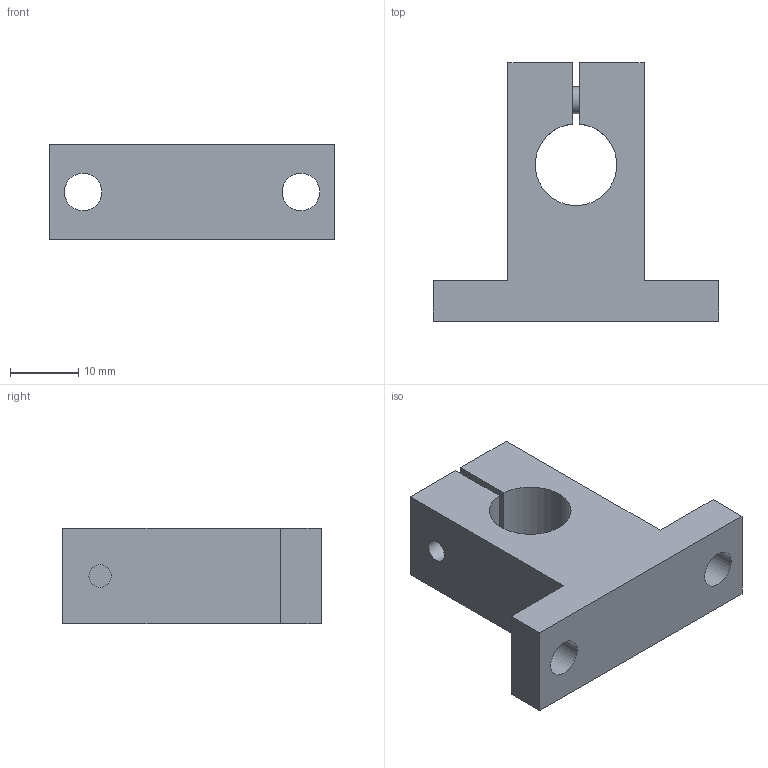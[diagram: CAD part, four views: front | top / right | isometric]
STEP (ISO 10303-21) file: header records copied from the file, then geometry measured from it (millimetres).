
FILE_DESCRIPTION(('STEP AP203'),'1');
FILE_NAME('//192.168.1.1/share/s-4 技術開発/s-4-14_個人別フォルダ/橋詰/09_CAD_DATA/3D/HP用/3Ｄモデル/SN-A/SN-12A.step','2021-09-16T02:42:42',(' '),(' '),'Spatial InterOp 3D',' ',' ');
FILE_SCHEMA(('CONFIG_CONTROL_DESIGN'));
Length unit declared in the file: millimetre
Products named in the file (2): 1; 2
Bounding box: 42 x 38 x 14 mm (x, y, z)
Volume: 10398.3 mm3; surface area: 5210.5 mm2
Topology: 2 solids, 2 shells, 34 faces, 84 edges, 57 vertices
Faces by surface type: plane 24, cylinder 9, cone 1
Full cylindrical faces by diameter (mm): 3.3 x1, 4 x2, 4.5 x1, 5.5 x2, 7 x1, 8 x1
Entity records: 1054 total; most frequent: CARTESIAN_POINT 191, DIRECTION 158, ORIENTED_EDGE 140, EDGE_CURVE 70, EDGE_LOOP 54, AXIS2_PLACEMENT_3D 53, VERTEX_POINT 52, LINE 52
